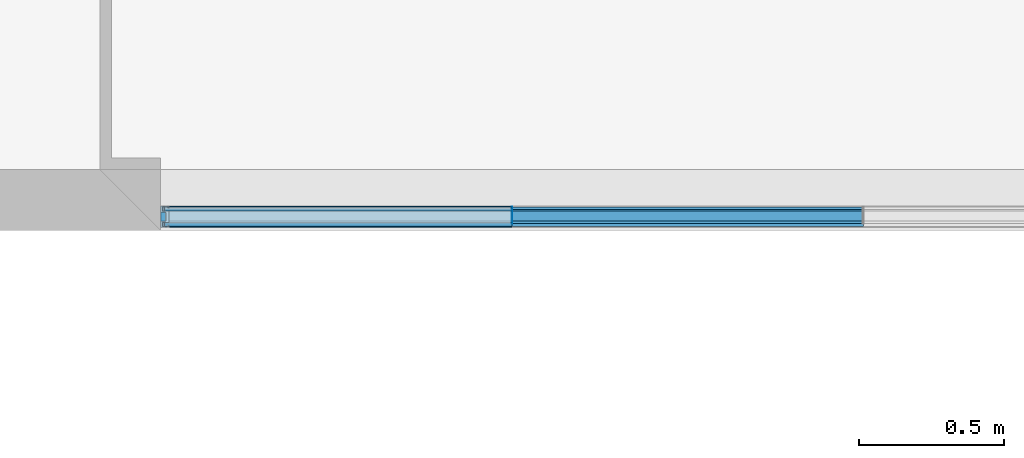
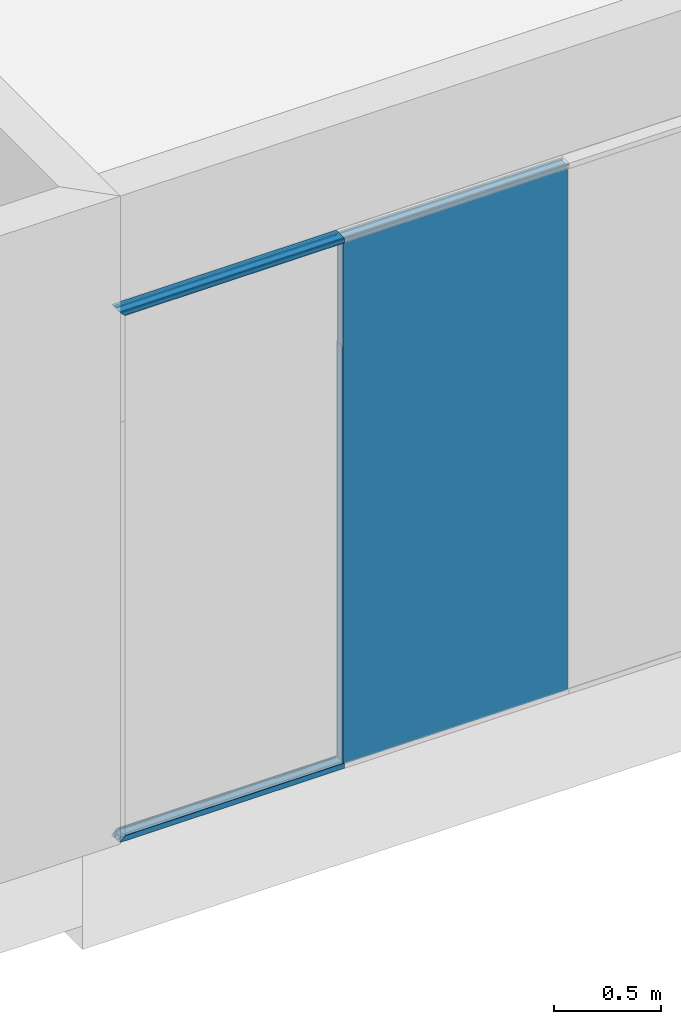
# One storey, part 41 of 387: 9 building element parts, 6 elements without a shape of their own.
"""IFC2X3 building model written with IfcOpenShell, lengths in millimetres."""

from ifc_helpers import new_model, entity, si_unit, converted_unit, derived_unit, money_unit, direction, frame, origin_with_axes, place, context, subcontext, project, spatial, faceted_brep, source, transform, mapped, material, type_object, element, aggregate, save


model = new_model("IFC2X3")

# Units and contexts
model_context = context("Model", 3, precision=0.01, world=origin_with_axes(), true_north=direction((0.0, 1.0)))
body_context = subcontext(model_context, "Body", "Model", "MODEL_VIEW")
ifc_project = project(units=[si_unit("LENGTHUNIT", "METRE", prefix="MILLI"), si_unit("AREAUNIT", "SQUARE_METRE"), si_unit("VOLUMEUNIT", "CUBIC_METRE"), converted_unit("PLANEANGLEUNIT", "DEGREE", entity("IfcPlaneAngleMeasure", 0.0174532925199), si_unit("PLANEANGLEUNIT", "RADIAN"), dimensions=[0, 0, 0, 0, 0, 0, 0]), si_unit("SOLIDANGLEUNIT", "STERADIAN"), money_unit("EUR"), converted_unit("TIMEUNIT", "Year", entity("IfcTimeMeasure", 31556926.0), si_unit("TIMEUNIT", "SECOND"), dimensions=[0, 0, 1, 0, 0, 0, 0]), si_unit("MASSUNIT", "GRAM", prefix="KILO"), si_unit("THERMODYNAMICTEMPERATUREUNIT", "DEGREE_CELSIUS"), si_unit("LUMINOUSINTENSITYUNIT", "LUMEN"), si_unit("ENERGYUNIT", "JOULE", prefix="MEGA"), derived_unit("THERMALCONDUCTANCEUNIT", [(si_unit("POWERUNIT", "WATT"), 1), (si_unit("LENGTHUNIT", "METRE"), -1), (si_unit("THERMODYNAMICTEMPERATUREUNIT", "KELVIN"), -1)]), derived_unit("SPECIFICHEATCAPACITYUNIT", [(si_unit("ENERGYUNIT", "JOULE"), 1), (si_unit("MASSUNIT", "GRAM", prefix="KILO"), -1), (si_unit("THERMODYNAMICTEMPERATUREUNIT", "KELVIN"), -1)]), derived_unit("MASSDENSITYUNIT", [(si_unit("MASSUNIT", "GRAM", prefix="KILO"), 1), (si_unit("VOLUMEUNIT", "CUBIC_METRE"), -1)])], contexts=[model_context])

# Site, building, storey
site_placement = place(None, origin_with_axes())
site = spatial("IfcSite", under=ifc_project, at=site_placement, Name="Puškini 31, Narva", CompositionType="ELEMENT")
building_placement = place(site_placement, origin_with_axes())
building = spatial("IfcBuilding", under=site, at=building_placement, Name="Narva Riigigümnaasium", CompositionType="ELEMENT")
storey_placement = place(building_placement, frame((0.0, 0.0, 2640.0), z_axis=(0.0, 0.0, 1.0), x_axis=(1.0, 0.0, 0.0)))
storey = spatial("IfcBuildingStorey", under=building, at=storey_placement, Name="2.korrus +2.64", CompositionType="ELEMENT", Elevation=2640.0)

# Curtain wall, members, building element parts, plate
curtain_wall_type = type_object("IfcCurtainWallType", Name="Curtain Wall Type", PredefinedType="NOTDEFINED")
curtain_wall_placement = place(storey_placement, frame((37052.5000014, 163542.000002, -0.000124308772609), z_axis=(0.0, 0.0, 1.0), x_axis=(1.0, 0.0, 0.0)))
curtain_wall = element("IfcCurtainWall", 1, at=curtain_wall_placement, inside=storey, type_object=curtain_wall_type, Name="G-SKLF-48")
member_type_1 = type_object("IfcMemberType", Name="Siseklaasfassaad - Raam n2htamatu 3 x 29", PredefinedType="MULLION")
member_1_placement = place(curtain_wall_placement, frame((-3037.5, 0.0, 0.0), z_axis=(0.0, 0.0, 1.0), x_axis=(-1.0, 0.0, 0.0)))
member_1 = element("IfcMember", 2, at=member_1_placement, type_object=member_type_1, Name="Frame-Siseklaasf-069", ObjectType="MULLION")
ifc_material_1 = material(Name="Klaas")
shared_shape_1 = source(origin_with_axes(), body_context, "Body", "Brep", [
    faceted_brep([(-1.5000138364, 20.0064497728, 30.0000193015), (1.4999861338, 20.0064497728, 30.0000193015), (1.4999861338, 20.0064497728, 2400.00012431), (-1.5000138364, 20.0064497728, 2400.00012431), (-1.5000138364, 29.0064496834, 30.0000193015), (1.4999861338, 29.0064496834, 30.0000193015), (1.4999861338, 29.0064496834, 2400.00012431), (-1.5000138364, 29.0064496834, 2400.00012431)], [[[0, 1, 2, 3]], [[1, 0, 4, 5]], [[1, 5, 6, 2]], [[2, 6, 7, 3]], [[4, 0, 3, 7]], [[5, 4, 7, 6]]]),
    faceted_brep([(1.4999861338, -28.9935503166, 30.0000193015), (1.4999861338, -19.993550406, 30.0000193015), (1.4999861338, -19.993550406, 2400.00012431), (1.4999861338, -28.9935503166, 2400.00012431), (-1.5000138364, -28.9935503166, 30.0000193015), (-1.5000138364, -19.993550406, 30.0000193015), (-1.5000138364, -19.993550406, 2400.00012431), (-1.5000138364, -28.9935503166, 2400.00012431)], [[[0, 1, 2, 3]], [[1, 0, 4, 5]], [[1, 5, 6, 2]], [[2, 6, 7, 3]], [[4, 0, 3, 7]], [[5, 4, 7, 6]]]),
])
building_element_part_1_placement = place(member_1_placement, origin_with_axes())
building_element_part_1 = element("IfcBuildingElementPart", 3, at=building_element_part_1_placement, material=ifc_material_1, Name="Klaas", context=body_context, shape_type="MappedRepresentation", body=[
    mapped(shared_shape_1, transform((0.0, 0.0, 0.0), x_axis=(-1.0, 0.0, 0.0), y_axis=(0.0, -1.0, 0.0), z_axis=(0.0, 0.0, 1.0))),
])
ifc_material_2 = material(Name="VKR-06_Õhkvahe")
shared_shape_2 = source(origin_with_axes(), body_context, "Body", "Brep", [
    faceted_brep([(1.4999861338, -19.9935503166, 30.0000193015), (1.4999861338, 20.0064496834, 30.0000193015), (1.4999861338, 20.0064496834, 2400.00012431), (1.4999861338, -19.9935503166, 2400.00012431), (-1.5000138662, -19.9935503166, 30.0000193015), (-1.5000138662, 20.0064496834, 30.0000193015), (-1.5000138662, 20.0064496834, 2400.00012431), (-1.5000138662, -19.9935503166, 2400.00012431)], [[[0, 1, 2, 3]], [[1, 0, 4, 5]], [[1, 5, 6, 2]], [[2, 6, 7, 3]], [[4, 0, 3, 7]], [[5, 4, 7, 6]]]),
])
building_element_part_2_placement = place(member_1_placement, origin_with_axes())
building_element_part_2 = element("IfcBuildingElementPart", 4, at=building_element_part_2_placement, material=ifc_material_2, Name="VKR-06_Õhkvahe", context=body_context, shape_type="MappedRepresentation", body=[
    mapped(shared_shape_2, transform((0.0, 0.0, 0.0), x_axis=(-1.0, 0.0, 0.0), y_axis=(0.0, -1.0, 0.0), z_axis=(0.0, 0.0, 1.0))),
])
aggregate(member_1, [building_element_part_1, building_element_part_2])
member_type_2 = type_object("IfcMemberType", Name="Boundary Frame 30 x 42", PredefinedType="MULLION")
member_2_placement = place(curtain_wall_placement, frame((-1822.5, 0.0, 3030.00007225), z_axis=(-1.0, 0.0, 1.38652685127e-08), x_axis=(-1.38652685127e-08, 0.0, -1.0)))
member_2 = element("IfcMember", 5, at=member_2_placement, type_object=member_type_2, Name="G-SKLF-76-raam", ObjectType="MULLION")
ifc_material_3 = material(Name="Klaasvill")
shared_shape_3 = source(origin_with_axes(), body_context, "Body", "Brep", [
    faceted_brep([(-7.49999990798, 15.000000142, -2.079791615e-07), (-7.49999990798, 15.000000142, 1215.00000021), (-13.8499999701, 15.000000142, 1215.00000021), (-13.8499999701, 15.000000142, -2.079791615e-07), (-7.49999990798, 29.0161444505, -2.079791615e-07), (-7.49999990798, 29.0161444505, 1215.00000021), (-13.8499999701, 29.0161444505, 1215.00000021), (-13.8499999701, 29.0161444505, -2.079791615e-07)], [[[0, 1, 2, 3]], [[4, 5, 1, 0]], [[1, 5, 6, 2]], [[3, 2, 6, 7]], [[0, 3, 7, 4]], [[7, 6, 5, 4]]]),
    faceted_brep([(-24.987414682, 29.0161444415, -2.079791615e-07), (-24.987414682, 29.0161444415, 1215.00000021), (-25.004489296, 27.0307503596, 1215.00000021), (-25.004489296, 27.0307503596, -2.079791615e-07), (-28.5126239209, 29.0161444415, -2.079791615e-07), (-28.5126239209, 29.0161444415, 1215.00000021), (-28.7655837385, 28.0385325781, 1215.00000021), (-28.4955493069, 27.0307503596, 1215.00000021), (-27.75780152, 26.2930025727, 1215.00000021), (-26.7500193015, 26.0229681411, 1215.00000021), (-25.742237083, 26.2930025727, 1215.00000021), (-25.742237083, 26.2930025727, -2.079791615e-07), (-26.7500193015, 26.0229681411, -2.079791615e-07), (-27.75780152, 26.2930025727, -2.079791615e-07), (-28.4955493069, 27.0307503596, -2.079791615e-07), (-28.7655837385, 28.0385325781, -2.079791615e-07)], [[[0, 1, 2, 3]], [[4, 5, 1, 0]], [[1, 5, 6, 7, 8, 9, 10, 2]], [[3, 2, 10, 11]], [[0, 3, 11, 12, 13, 14, 15, 4]], [[15, 6, 5, 4]], [[14, 7, 6, 15]], [[13, 8, 7, 14]], [[12, 9, 8, 13]], [[11, 10, 9, 12]]]),
    faceted_brep([(-7.49999990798, -24.9999997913, -2.079791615e-07), (-7.49999990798, -24.9999997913, 1215.00000021), (-7.49999990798, -39.0161445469, 1215.00000021), (-7.49999990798, -39.0161445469, -2.079791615e-07), (-13.8499999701, -24.9999997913, -2.079791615e-07), (-13.8499999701, -24.9999997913, 1215.00000021), (-13.8499999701, -39.0161445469, 1215.00000021), (-13.8499999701, -39.0161445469, -2.079791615e-07)], [[[0, 1, 2, 3]], [[4, 5, 1, 0]], [[1, 5, 6, 2]], [[3, 2, 6, 7]], [[0, 3, 7, 4]], [[7, 6, 5, 4]]]),
    faceted_brep([(-25.004489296, -37.0307503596, -2.079791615e-07), (-25.004489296, -37.0307503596, 1215.00000021), (-24.987414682, -39.0161444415, 1215.00000021), (-24.987414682, -39.0161444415, -2.079791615e-07), (-25.742237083, -36.2930025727, -2.079791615e-07), (-25.742237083, -36.2930025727, 1215.00000021), (-26.7500193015, -36.0229681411, 1215.00000021), (-27.75780152, -36.2930025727, 1215.00000021), (-28.4955493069, -37.0307503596, 1215.00000021), (-28.7655837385, -38.0385325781, 1215.00000021), (-28.5126239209, -39.0161444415, 1215.00000021), (-28.5126239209, -39.0161444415, -2.079791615e-07), (-28.7655837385, -38.0385325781, -2.079791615e-07), (-28.4955493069, -37.0307503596, -2.079791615e-07), (-27.75780152, -36.2930025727, -2.079791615e-07), (-26.7500193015, -36.0229681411, -2.079791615e-07)], [[[0, 1, 2, 3]], [[4, 5, 1, 0]], [[1, 5, 6, 7, 8, 9, 10, 2]], [[3, 2, 10, 11]], [[0, 3, 11, 12, 13, 14, 15, 4]], [[15, 6, 5, 4]], [[14, 7, 6, 15]], [[13, 8, 7, 14]], [[12, 9, 8, 13]], [[11, 10, 9, 12]]]),
])
building_element_part_3_placement = place(member_2_placement, origin_with_axes())
building_element_part_3 = element("IfcBuildingElementPart", 6, at=building_element_part_3_placement, material=ifc_material_3, Name="Klaasvill", context=body_context, shape_type="MappedRepresentation", body=[
    mapped(shared_shape_3, transform((0.0, 0.0, 0.0), x_axis=(-1.0, 0.0, 1.38652685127e-08), y_axis=(0.0, -1.0, 0.0), z_axis=(1.38652685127e-08, 0.0, 1.0))),
])
aggregate(member_2, [building_element_part_3])
plate_type = type_object("IfcPlateType", Name="Siseklaasfassaad - Klaas 1212 x 615 x 10", PredefinedType="CURTAIN_PANEL")
plate_placement = place(curtain_wall_placement, frame((-2430.0, 0.0, 1810.00006833), z_axis=(0.0, 0.0, 1.0), x_axis=(-1.0, 0.0, 0.0)))
plate = element("IfcPlate", 7, at=plate_placement, type_object=plate_type, Name="G-SKLF-48-klaas", ObjectType="CURTAIN_PANEL")
ifc_material_4 = material(Name="VKR-05_Klaas")
shared_shape_4 = source(origin_with_axes(), body_context, "Body", "Brep", [
    faceted_brep([(-1213.50002089, 3015.00006206, -29.0), (-1213.50002089, 3015.00006206, -20.0), (-1.49999198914, 3015.00006206, -20.0), (-1.49999198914, 3015.00006206, -29.0), (-1213.50002089, 15.0000101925, -29.0), (-1213.50002089, 15.0000101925, -20.0), (-1.49999198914, 15.0000101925, -20.0), (-1.49999198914, 15.0000101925, -29.0)], [[[0, 1, 2, 3]], [[4, 5, 1, 0]], [[1, 5, 6, 2]], [[3, 2, 6, 7]], [[0, 3, 7, 4]], [[7, 6, 5, 4]]]),
    faceted_brep([(-1213.50002089, 3015.00006206, 20.0), (-1213.50002089, 3015.00006206, 29.0), (-1.49999198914, 3015.00006206, 29.0), (-1.49999198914, 3015.00006206, 20.0), (-1213.50002089, 15.0000101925, 20.0), (-1213.50002089, 15.0000101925, 29.0), (-1.49999198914, 15.0000101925, 29.0), (-1.49999198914, 15.0000101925, 20.0)], [[[0, 1, 2, 3]], [[4, 5, 1, 0]], [[1, 5, 6, 2]], [[3, 2, 6, 7]], [[0, 3, 7, 4]], [[7, 6, 5, 4]]]),
])
building_element_part_4_placement = place(plate_placement, origin_with_axes())
building_element_part_4 = element("IfcBuildingElementPart", 8, at=building_element_part_4_placement, material=ifc_material_4, Name="VKR-05_Klaas", context=body_context, shape_type="MappedRepresentation", body=[
    mapped(shared_shape_4, transform((607.5, 0.0, -1810.00006833), x_axis=(1.0, 0.0, 0.0), y_axis=(0.0, 0.0, 1.0), z_axis=(0.0, -1.0, 0.0))),
])
shared_shape_5 = source(origin_with_axes(), body_context, "Body", "Brep", [
    faceted_brep([(-1213.50002089, 3015.00006206, -20.0), (-1213.50002089, 3015.00006206, 20.0), (-1.49999198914, 3015.00006206, 20.0), (-1.49999198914, 3015.00006206, -20.0), (-1213.50002089, 15.0000101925, -20.0), (-1213.50002089, 15.0000101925, 20.0), (-1.49999198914, 15.0000101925, 20.0), (-1.49999198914, 15.0000101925, -20.0)], [[[0, 1, 2, 3]], [[4, 5, 1, 0]], [[1, 5, 6, 2]], [[3, 2, 6, 7]], [[0, 3, 7, 4]], [[7, 6, 5, 4]]]),
])
building_element_part_5_placement = place(plate_placement, origin_with_axes())
building_element_part_5 = element("IfcBuildingElementPart", 9, at=building_element_part_5_placement, material=ifc_material_2, Name="VKR-06_Õhkvahe", context=body_context, shape_type="MappedRepresentation", body=[
    mapped(shared_shape_5, transform((607.5, 0.0, -1810.00006833), x_axis=(1.0, 0.0, 0.0), y_axis=(0.0, 0.0, 1.0), z_axis=(0.0, -1.0, 0.0))),
])
aggregate(plate, [building_element_part_4, building_element_part_5])
member_3_placement = place(curtain_wall_placement, frame((-3037.5, 0.0, 3030.0000891), z_axis=(-1.0, 0.0, 0.0), x_axis=(0.0, 0.0, -1.0)))
member_3 = element("IfcMember", 10, at=member_3_placement, type_object=member_type_2, Name="G-SKLF-77-raam", ObjectType="MULLION")
shared_shape_6 = source(origin_with_axes(), body_context, "Body", "Brep", [
    faceted_brep([(-7.49999990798, 15.000000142, -2.079791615e-07), (-7.49999990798, 15.000000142, 1207.50000009), (-13.8499999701, 15.000000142, 1201.15000003), (-13.8499999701, 15.000000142, -2.079791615e-07), (-7.49999990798, 29.0161444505, -2.079791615e-07), (-7.49999990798, 29.0161444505, 1207.50000009), (-13.8499999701, 29.0161444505, 1201.15000003), (-13.8499999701, 29.0161444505, -2.079791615e-07)], [[[0, 1, 2, 3]], [[4, 5, 1, 0]], [[1, 5, 6, 2]], [[3, 2, 6, 7]], [[0, 3, 7, 4]], [[7, 6, 5, 4]]]),
    faceted_brep([(-24.987414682, 29.0161444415, -2.079791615e-07), (-24.987414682, 29.0161444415, 1190.01258532), (-25.004489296, 27.0307503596, 1189.9955107), (-25.004489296, 27.0307503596, -2.079791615e-07), (-28.5126239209, 29.0161444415, -2.079791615e-07), (-28.5126239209, 29.0161444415, 1186.48737608), (-28.7655837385, 28.0385325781, 1186.23441626), (-28.4955493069, 27.0307503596, 1186.50445069), (-27.75780152, 26.2930025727, 1187.24219848), (-26.7500193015, 26.0229681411, 1188.2499807), (-25.742237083, 26.2930025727, 1189.25776292), (-25.742237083, 26.2930025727, -2.079791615e-07), (-26.7500193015, 26.0229681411, -2.079791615e-07), (-27.75780152, 26.2930025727, -2.079791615e-07), (-28.4955493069, 27.0307503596, -2.079791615e-07), (-28.7655837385, 28.0385325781, -2.079791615e-07)], [[[0, 1, 2, 3]], [[4, 5, 1, 0]], [[1, 5, 6, 7, 8, 9, 10, 2]], [[3, 2, 10, 11]], [[0, 3, 11, 12, 13, 14, 15, 4]], [[15, 6, 5, 4]], [[14, 7, 6, 15]], [[13, 8, 7, 14]], [[12, 9, 8, 13]], [[11, 10, 9, 12]]]),
    faceted_brep([(-7.49999990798, -24.9999997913, -2.079791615e-07), (-7.49999990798, -24.9999997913, 1207.50000009), (-7.49999990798, -39.0161445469, 1207.50000009), (-7.49999990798, -39.0161445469, -2.079791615e-07), (-13.8499999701, -24.9999997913, -2.079791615e-07), (-13.8499999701, -24.9999997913, 1201.15000003), (-13.8499999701, -39.0161445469, 1201.15000003), (-13.8499999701, -39.0161445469, -2.079791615e-07)], [[[0, 1, 2, 3]], [[4, 5, 1, 0]], [[1, 5, 6, 2]], [[3, 2, 6, 7]], [[0, 3, 7, 4]], [[7, 6, 5, 4]]]),
    faceted_brep([(-25.004489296, -37.0307503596, -2.079791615e-07), (-25.004489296, -37.0307503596, 1189.9955107), (-24.987414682, -39.0161444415, 1190.01258532), (-24.987414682, -39.0161444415, -2.079791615e-07), (-25.742237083, -36.2930025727, -2.079791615e-07), (-25.742237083, -36.2930025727, 1189.25776292), (-26.7500193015, -36.0229681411, 1188.2499807), (-27.75780152, -36.2930025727, 1187.24219848), (-28.4955493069, -37.0307503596, 1186.50445069), (-28.7655837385, -38.0385325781, 1186.23441626), (-28.5126239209, -39.0161444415, 1186.48737608), (-28.5126239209, -39.0161444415, -2.079791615e-07), (-28.7655837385, -38.0385325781, -2.079791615e-07), (-28.4955493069, -37.0307503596, -2.079791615e-07), (-27.75780152, -36.2930025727, -2.079791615e-07), (-26.7500193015, -36.0229681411, -2.079791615e-07)], [[[0, 1, 2, 3]], [[4, 5, 1, 0]], [[1, 5, 6, 7, 8, 9, 10, 2]], [[3, 2, 10, 11]], [[0, 3, 11, 12, 13, 14, 15, 4]], [[15, 6, 5, 4]], [[14, 7, 6, 15]], [[13, 8, 7, 14]], [[12, 9, 8, 13]], [[11, 10, 9, 12]]]),
])
building_element_part_6_placement = place(member_3_placement, origin_with_axes())
building_element_part_6 = element("IfcBuildingElementPart", 11, at=building_element_part_6_placement, material=ifc_material_3, Name="Klaasvill", context=body_context, shape_type="MappedRepresentation", body=[
    mapped(shared_shape_6, transform((0.0, 0.0, 0.0), x_axis=(-1.0, 0.0, 0.0), y_axis=(0.0, -1.0, 0.0), z_axis=(0.0, 0.0, 1.0))),
])
ifc_material_5 = material(Name="Teras RAL7012")
shared_shape_7 = source(origin_with_axes(), body_context, "Body", "Brep", [
    faceted_brep([(0.0, -22.0000000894, -2.079791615e-07), (0.0, -22.0000000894, 1215.0), (-29.5999996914, -22.0000000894, 1185.40000031), (-29.5999996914, -22.0000000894, -2.079791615e-07), (0.0, 12.0000000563, -2.079791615e-07), (0.0, 12.0000000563, 1215.0), (-29.5999996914, 12.0000000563, 1185.40000031), (-1.9999999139, 10.0000001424, 1213.00000009), (-1.9999999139, -20.0000001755, 1213.00000009), (-18.7999996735, -20.0000001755, 1196.20000033), (-18.7999996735, 10.0000001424, 1196.20000033), (-29.5999996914, 12.0000000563, -2.079791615e-07), (-1.9999999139, 10.0000001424, -2.079791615e-07), (-18.7999996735, 10.0000001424, -2.079791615e-07), (-18.7999996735, -20.0000001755, -2.079791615e-07), (-1.9999999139, -20.0000001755, -2.079791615e-07)], [[[0, 1, 2, 3]], [[4, 5, 1, 0]], [[1, 5, 6, 2], [7, 8, 9, 10]], [[3, 2, 6, 11]], [[0, 3, 11, 4], [12, 13, 14, 15]], [[11, 6, 5, 4]], [[15, 8, 7, 12]], [[14, 9, 8, 15]], [[13, 10, 9, 14]], [[12, 7, 10, 13]]]),
    faceted_brep([(0.0, 12.0, -2.079791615e-07), (0.0, 12.0, 1215.0), (-29.5999996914, 12.0000000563, 1185.40000031), (-29.5999996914, 12.0000000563, -2.079791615e-07), (0.0, 32.0, -2.079791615e-07), (0.0, 32.0, 1215.0), (-30.0000193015, 32.0, 1184.9999807), (-30.0000193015, 29.0161444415, 1184.9999807), (-28.5126239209, 29.0161444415, 1186.48737608), (-24.987414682, 29.0161444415, 1190.01258532), (-13.8499999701, 29.0161444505, 1201.15000003), (-7.49999999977, 29.0161444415, 1207.5), (-7.49999999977, 15.0, 1207.5), (-13.8499999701, 15.000000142, 1201.15000003), (-30.0000193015, 15.0, 1184.9999807), (-30.0000193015, 12.0, 1184.9999807), (-30.0000193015, 12.0, -2.079791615e-07), (-30.0000193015, 15.0, -2.079791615e-07), (-13.8499999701, 15.000000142, -2.079791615e-07), (-7.49999999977, 15.0, -2.079791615e-07), (-7.49999999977, 29.0161444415, -2.079791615e-07), (-13.8499999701, 29.0161444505, -2.079791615e-07), (-24.987414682, 29.0161444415, -2.079791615e-07), (-28.5126239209, 29.0161444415, -2.079791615e-07), (-30.0000193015, 29.0161444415, -2.079791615e-07), (-30.0000193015, 32.0, -2.079791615e-07)], [[[0, 1, 2, 3]], [[4, 5, 1, 0]], [[1, 5, 6, 7, 8, 9, 10, 11, 12, 13, 14, 15, 2]], [[3, 2, 15, 16]], [[0, 3, 16, 17, 18, 19, 20, 21, 22, 23, 24, 25, 4]], [[25, 6, 5, 4]], [[24, 7, 6, 25]], [[23, 8, 7, 24]], [[22, 9, 8, 23]], [[21, 10, 9, 22]], [[20, 11, 10, 21]], [[19, 12, 11, 20]], [[18, 13, 12, 19]], [[17, 14, 13, 18]], [[16, 15, 14, 17]]]),
    faceted_brep([(0.0, -22.0, -2.079791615e-07), (0.0, -22.0, 1215.0), (0.0, -42.0, 1215.0), (0.0, -42.0, -2.079791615e-07), (-29.5999996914, -22.0000000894, -2.079791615e-07), (-29.5999996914, -22.0000000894, 1185.40000031), (-30.0000193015, -22.0, 1184.9999807), (-30.0000193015, -25.0, 1184.9999807), (-13.8499999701, -24.9999997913, 1201.15000003), (-7.49999999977, -25.0, 1207.5), (-7.49999999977, -39.0161444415, 1207.5), (-13.8499999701, -39.0161445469, 1201.15000003), (-24.987414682, -39.0161444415, 1190.01258532), (-28.5126239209, -39.0161444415, 1186.48737608), (-30.0000193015, -39.0161444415, 1184.9999807), (-30.0000193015, -42.0, 1184.9999807), (-30.0000193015, -42.0, -2.079791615e-07), (-30.0000193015, -39.0161444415, -2.079791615e-07), (-28.5126239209, -39.0161444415, -2.079791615e-07), (-24.987414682, -39.0161444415, -2.079791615e-07), (-13.8499999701, -39.0161445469, -2.079791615e-07), (-7.49999999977, -39.0161444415, -2.079791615e-07), (-7.49999999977, -25.0, -2.079791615e-07), (-13.8499999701, -24.9999997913, -2.079791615e-07), (-30.0000193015, -25.0, -2.079791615e-07), (-30.0000193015, -22.0, -2.079791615e-07)], [[[0, 1, 2, 3]], [[4, 5, 1, 0]], [[1, 5, 6, 7, 8, 9, 10, 11, 12, 13, 14, 15, 2]], [[3, 2, 15, 16]], [[0, 3, 16, 17, 18, 19, 20, 21, 22, 23, 24, 25, 4]], [[25, 6, 5, 4]], [[24, 7, 6, 25]], [[23, 8, 7, 24]], [[22, 9, 8, 23]], [[21, 10, 9, 22]], [[20, 11, 10, 21]], [[19, 12, 11, 20]], [[18, 13, 12, 19]], [[17, 14, 13, 18]], [[16, 15, 14, 17]]]),
])
building_element_part_7_placement = place(member_3_placement, origin_with_axes())
building_element_part_7 = element("IfcBuildingElementPart", 12, at=building_element_part_7_placement, material=ifc_material_5, Name="Teras RAL7012", context=body_context, shape_type="MappedRepresentation", body=[
    mapped(shared_shape_7, transform((0.0, 0.0, 0.0), x_axis=(-1.0, 0.0, 0.0), y_axis=(0.0, -1.0, 0.0), z_axis=(0.0, 0.0, 1.0))),
])
aggregate(member_3, [building_element_part_6, building_element_part_7])
member_4_placement = place(curtain_wall_placement, frame((-4252.5, 0.0, 0.0), z_axis=(1.0, 0.0, 0.0), x_axis=(0.0, 0.0, 1.0)))
member_4 = element("IfcMember", 13, at=member_4_placement, type_object=member_type_2, Name="G-SKLF-64-raam", ObjectType="MULLION")
aggregate(curtain_wall, [member_3, member_2, member_4, member_1, plate])
shared_shape_8 = source(origin_with_axes(), body_context, "Body", "Brep", [
    faceted_brep([(-13.8499999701, 15.000000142, 13.8500001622), (-7.49999990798, 15.000000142, 7.50000001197), (-7.49999990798, 15.000000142, 1215.00000021), (-13.8499999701, 15.000000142, 1215.00000021), (-13.8499999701, 29.0161444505, 13.8500001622), (-7.49999990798, 29.0161444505, 7.50000001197), (-7.49999990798, 29.0161444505, 1215.00000021), (-13.8499999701, 29.0161444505, 1215.00000021)], [[[0, 1, 2, 3]], [[1, 0, 4, 5]], [[1, 5, 6, 2]], [[2, 6, 7, 3]], [[4, 0, 3, 7]], [[5, 4, 7, 6]]]),
    faceted_brep([(-25.004489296, 27.0307503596, 25.0044896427), (-24.987414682, 29.0161444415, 24.9874150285), (-24.987414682, 29.0161444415, 1215.00000021), (-25.004489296, 27.0307503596, 1215.00000021), (-25.742237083, 26.2930025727, 25.7422374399), (-26.7500193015, 26.0229681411, 26.7500196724), (-27.75780152, 26.2930025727, 27.7578019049), (-28.4955493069, 27.0307503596, 28.495549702), (-28.7655837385, 28.0385325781, 28.7655841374), (-28.5126239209, 29.0161444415, 28.5126243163), (-28.5126239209, 29.0161444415, 1215.00000021), (-28.7655837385, 28.0385325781, 1215.00000021), (-28.4955493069, 27.0307503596, 1215.00000021), (-27.75780152, 26.2930025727, 1215.00000021), (-26.7500193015, 26.0229681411, 1215.00000021), (-25.742237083, 26.2930025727, 1215.00000021)], [[[0, 1, 2, 3]], [[1, 0, 4, 5, 6, 7, 8, 9]], [[1, 9, 10, 2]], [[2, 10, 11, 12, 13, 14, 15, 3]], [[4, 0, 3, 15]], [[5, 4, 15, 14]], [[6, 5, 14, 13]], [[7, 6, 13, 12]], [[8, 7, 12, 11]], [[9, 8, 11, 10]]]),
    faceted_brep([(-7.49999990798, -39.0161445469, 7.50000001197), (-7.49999990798, -24.9999997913, 7.50000001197), (-7.49999990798, -24.9999997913, 1215.00000021), (-7.49999990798, -39.0161445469, 1215.00000021), (-13.8499999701, -39.0161445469, 13.8500001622), (-13.8499999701, -24.9999997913, 13.8500001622), (-13.8499999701, -24.9999997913, 1215.00000021), (-13.8499999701, -39.0161445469, 1215.00000021)], [[[0, 1, 2, 3]], [[1, 0, 4, 5]], [[1, 5, 6, 2]], [[2, 6, 7, 3]], [[4, 0, 3, 7]], [[5, 4, 7, 6]]]),
    faceted_brep([(-24.987414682, -39.0161444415, 24.9874150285), (-25.004489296, -37.0307503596, 25.0044896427), (-25.004489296, -37.0307503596, 1215.00000021), (-24.987414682, -39.0161444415, 1215.00000021), (-28.5126239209, -39.0161444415, 28.5126243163), (-28.7655837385, -38.0385325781, 28.7655841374), (-28.4955493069, -37.0307503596, 28.495549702), (-27.75780152, -36.2930025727, 27.7578019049), (-26.7500193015, -36.0229681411, 26.7500196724), (-25.742237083, -36.2930025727, 25.7422374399), (-25.742237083, -36.2930025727, 1215.00000021), (-26.7500193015, -36.0229681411, 1215.00000021), (-27.75780152, -36.2930025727, 1215.00000021), (-28.4955493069, -37.0307503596, 1215.00000021), (-28.7655837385, -38.0385325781, 1215.00000021), (-28.5126239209, -39.0161444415, 1215.00000021)], [[[0, 1, 2, 3]], [[1, 0, 4, 5, 6, 7, 8, 9]], [[1, 9, 10, 2]], [[2, 10, 11, 12, 13, 14, 15, 3]], [[4, 0, 3, 15]], [[5, 4, 15, 14]], [[6, 5, 14, 13]], [[7, 6, 13, 12]], [[8, 7, 12, 11]], [[9, 8, 11, 10]]]),
])
building_element_part_8_placement = place(member_4_placement, origin_with_axes())
building_element_part_8 = element("IfcBuildingElementPart", 14, at=building_element_part_8_placement, material=ifc_material_3, Name="Klaasvill", context=body_context, shape_type="MappedRepresentation", body=[
    mapped(shared_shape_8, transform((0.0, 0.0, 0.0), x_axis=(-1.0, 0.0, 0.0), y_axis=(0.0, -1.0, 0.0), z_axis=(0.0, 0.0, 1.0))),
])
shared_shape_9 = source(origin_with_axes(), body_context, "Body", "Brep", [
    faceted_brep([(-29.5999996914, -22.0000000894, 29.6000001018), (0.0, -22.0000000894, 0.0), (0.0, -22.0000000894, 1215.00000021), (-29.5999996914, -22.0000000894, 1215.00000021), (-29.5999996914, 12.0000000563, 29.6000001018), (0.0, 12.0000000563, 0.0), (-1.9999999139, 10.0000001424, 1.99999994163), (-18.7999996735, 10.0000001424, 18.7999999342), (-18.7999996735, -20.0000001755, 18.7999999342), (-1.9999999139, -20.0000001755, 1.99999994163), (0.0, 12.0000000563, 1215.00000021), (-29.5999996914, 12.0000000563, 1215.00000021), (-1.9999999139, 10.0000001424, 1215.00000021), (-1.9999999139, -20.0000001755, 1215.00000021), (-18.7999996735, -20.0000001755, 1215.00000021), (-18.7999996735, 10.0000001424, 1215.00000021)], [[[0, 1, 2, 3]], [[1, 0, 4, 5], [6, 7, 8, 9]], [[1, 5, 10, 2]], [[2, 10, 11, 3], [12, 13, 14, 15]], [[4, 0, 3, 11]], [[5, 4, 11, 10]], [[7, 6, 12, 15]], [[8, 7, 15, 14]], [[9, 8, 14, 13]], [[6, 9, 13, 12]]]),
    faceted_brep([(-29.5999996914, 12.0000000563, 29.6000001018), (0.0, 12.0, 0.0), (0.0, 12.0, 1215.00000021), (-29.5999996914, 12.0000000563, 1215.00000021), (-30.0000193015, 12.0, 30.0000197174), (-30.0000193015, 15.0, 30.0000197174), (-13.8499999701, 15.000000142, 13.8500001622), (-7.49999999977, 15.0, 7.50000010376), (-7.49999999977, 29.0161444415, 7.50000010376), (-13.8499999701, 29.0161444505, 13.8500001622), (-24.987414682, 29.0161444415, 24.9874150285), (-28.5126239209, 29.0161444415, 28.5126243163), (-30.0000193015, 29.0161444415, 30.0000197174), (-30.0000193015, 32.0, 30.0000197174), (0.0, 32.0, 0.0), (0.0, 32.0, 1215.00000021), (-30.0000193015, 32.0, 1215.00000021), (-30.0000193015, 29.0161444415, 1215.00000021), (-28.5126239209, 29.0161444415, 1215.00000021), (-24.987414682, 29.0161444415, 1215.00000021), (-13.8499999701, 29.0161444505, 1215.00000021), (-7.49999999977, 29.0161444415, 1215.00000021), (-7.49999999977, 15.0, 1215.00000021), (-13.8499999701, 15.000000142, 1215.00000021), (-30.0000193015, 15.0, 1215.00000021), (-30.0000193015, 12.0, 1215.00000021)], [[[0, 1, 2, 3]], [[1, 0, 4, 5, 6, 7, 8, 9, 10, 11, 12, 13, 14]], [[1, 14, 15, 2]], [[2, 15, 16, 17, 18, 19, 20, 21, 22, 23, 24, 25, 3]], [[4, 0, 3, 25]], [[5, 4, 25, 24]], [[6, 5, 24, 23]], [[7, 6, 23, 22]], [[8, 7, 22, 21]], [[9, 8, 21, 20]], [[10, 9, 20, 19]], [[11, 10, 19, 18]], [[12, 11, 18, 17]], [[13, 12, 17, 16]], [[14, 13, 16, 15]]]),
    faceted_brep([(0.0, -42.0, 0.0), (0.0, -22.0, 0.0), (0.0, -22.0, 1215.00000021), (0.0, -42.0, 1215.00000021), (-30.0000193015, -42.0, 30.0000197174), (-30.0000193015, -39.0161444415, 30.0000197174), (-28.5126239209, -39.0161444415, 28.5126243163), (-24.987414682, -39.0161444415, 24.9874150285), (-13.8499999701, -39.0161445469, 13.8500001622), (-7.49999999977, -39.0161444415, 7.50000010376), (-7.49999999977, -25.0, 7.50000010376), (-13.8499999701, -24.9999997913, 13.8500001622), (-30.0000193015, -25.0, 30.0000197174), (-30.0000193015, -22.0, 30.0000197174), (-29.5999996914, -22.0000000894, 29.6000001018), (-29.5999996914, -22.0000000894, 1215.00000021), (-30.0000193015, -22.0, 1215.00000021), (-30.0000193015, -25.0, 1215.00000021), (-13.8499999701, -24.9999997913, 1215.00000021), (-7.49999999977, -25.0, 1215.00000021), (-7.49999999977, -39.0161444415, 1215.00000021), (-13.8499999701, -39.0161445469, 1215.00000021), (-24.987414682, -39.0161444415, 1215.00000021), (-28.5126239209, -39.0161444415, 1215.00000021), (-30.0000193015, -39.0161444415, 1215.00000021), (-30.0000193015, -42.0, 1215.00000021)], [[[0, 1, 2, 3]], [[1, 0, 4, 5, 6, 7, 8, 9, 10, 11, 12, 13, 14]], [[1, 14, 15, 2]], [[2, 15, 16, 17, 18, 19, 20, 21, 22, 23, 24, 25, 3]], [[4, 0, 3, 25]], [[5, 4, 25, 24]], [[6, 5, 24, 23]], [[7, 6, 23, 22]], [[8, 7, 22, 21]], [[9, 8, 21, 20]], [[10, 9, 20, 19]], [[11, 10, 19, 18]], [[12, 11, 18, 17]], [[13, 12, 17, 16]], [[14, 13, 16, 15]]]),
])
building_element_part_9_placement = place(member_4_placement, origin_with_axes())
building_element_part_9 = element("IfcBuildingElementPart", 15, at=building_element_part_9_placement, material=ifc_material_5, Name="Teras RAL7012", context=body_context, shape_type="MappedRepresentation", body=[
    mapped(shared_shape_9, transform((0.0, 0.0, 0.0), x_axis=(-1.0, 0.0, 0.0), y_axis=(0.0, -1.0, 0.0), z_axis=(0.0, 0.0, 1.0))),
])
aggregate(member_4, [building_element_part_8, building_element_part_9])

save(model, "model.ifc")
